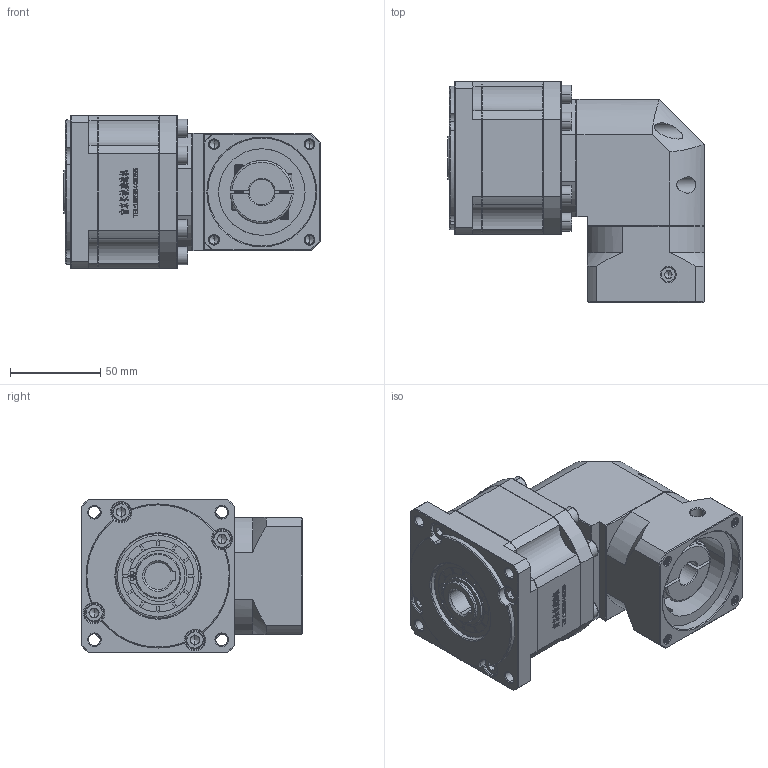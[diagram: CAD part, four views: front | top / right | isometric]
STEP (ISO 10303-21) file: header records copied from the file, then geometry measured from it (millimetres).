
FILE_DESCRIPTION (( 'STEP AP214' ), '1' );
FILE_NAME ('ZBR90-K15-L2-14-60-75-M6.step', '2022-05-07T15:24:37', ( '' ), ( 'Microsoft' ), 'SwSTEP 2.0', 'SolidWorks 2016', '' );
FILE_SCHEMA (( 'AUTOMOTIVE_DESIGN' ));
Length unit declared in the file: millimetre
Products named in the file (1): ZBR90-K15-L2-14-60-75-M6
Bounding box: 142.5 x 122.7 x 85 mm (x, y, z)
Volume: 796328.3 mm3; surface area: 99838.2 mm2
Topology: 5 solids, 5 shells, 2986 faces, 8029 edges, 5186 vertices
Faces by surface type: plane 1591, bspline 598, cylinder 414, cone 363, torus 20
Entity records: 156882 total; most frequent: CARTESIAN_POINT 53528, ORIENTED_EDGE 15970, DIRECTION 12382, EDGE_CURVE 7985, LINE 5314, VECTOR 5314, VERTEX_POINT 5186, AXIS2_PLACEMENT_3D 3534
